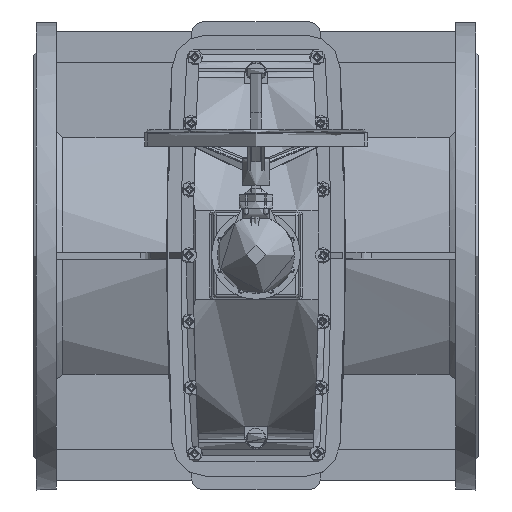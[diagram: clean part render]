
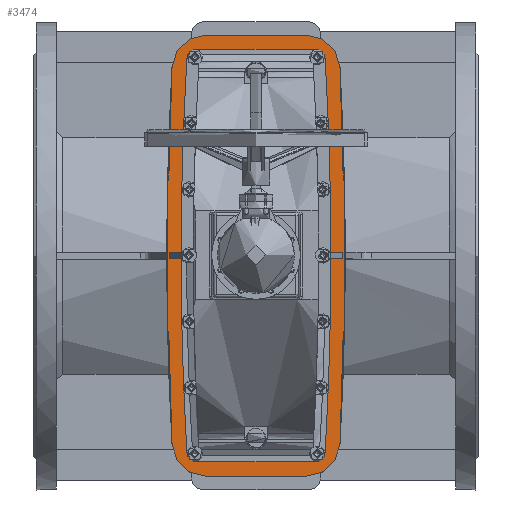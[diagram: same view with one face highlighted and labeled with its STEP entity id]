
A CAD part, top view. The second image highlights one B-rep face of the part: STEP entity #3474.
In plain terms, the highlighted planar face has unit normal (0, 0, 1).
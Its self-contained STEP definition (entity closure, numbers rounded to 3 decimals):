
#3474=ADVANCED_FACE('',(#9828,#9830),#9832,.T.);
#9828=FACE_BOUND('',#9829,.T.);
#9829=EDGE_LOOP('',(#30755,#30756,#30757,#30758,#30759,#30760,#30761,#30762));
#9830=FACE_BOUND('',#9831,.T.);
#9831=EDGE_LOOP('',(#30763,#30764,#30765,#30766,#30767,#30768,#30769,#30770,#30771,
#30772,#30773,#30774,#30775,#30776,#30777,#30778));
#9832=PLANE('',#9833);
#9833=AXIS2_PLACEMENT_3D('',#9834,#9835,#9836);
#9834=CARTESIAN_POINT('',(0.,0.,512.785));
#9835=DIRECTION('',(0.,0.,1.));
#9836=DIRECTION('',(-1.,0.,0.));
#30755=ORIENTED_EDGE('',*,*,#35868,.T.);
#30756=ORIENTED_EDGE('',*,*,#35866,.T.);
#30757=ORIENTED_EDGE('',*,*,#35864,.T.);
#30758=ORIENTED_EDGE('',*,*,#35862,.T.);
#30759=ORIENTED_EDGE('',*,*,#35878,.T.);
#30760=ORIENTED_EDGE('',*,*,#35876,.T.);
#30761=ORIENTED_EDGE('',*,*,#35874,.T.);
#30762=ORIENTED_EDGE('',*,*,#35870,.T.);
#30763=ORIENTED_EDGE('',*,*,#36004,.F.);
#30764=ORIENTED_EDGE('',*,*,#36005,.F.);
#30765=ORIENTED_EDGE('',*,*,#36006,.F.);
#30766=ORIENTED_EDGE('',*,*,#36007,.T.);
#30767=ORIENTED_EDGE('',*,*,#36008,.T.);
#30768=ORIENTED_EDGE('',*,*,#36009,.T.);
#30769=ORIENTED_EDGE('',*,*,#36010,.T.);
#30770=ORIENTED_EDGE('',*,*,#36011,.T.);
#30771=ORIENTED_EDGE('',*,*,#36012,.F.);
#30772=ORIENTED_EDGE('',*,*,#36013,.F.);
#30773=ORIENTED_EDGE('',*,*,#36014,.F.);
#30774=ORIENTED_EDGE('',*,*,#36015,.T.);
#30775=ORIENTED_EDGE('',*,*,#36016,.T.);
#30776=ORIENTED_EDGE('',*,*,#36017,.T.);
#30777=ORIENTED_EDGE('',*,*,#36018,.T.);
#30778=ORIENTED_EDGE('',*,*,#36019,.T.);
#35862=EDGE_CURVE('',#39529,#39527,#39530,.T.);
#35864=EDGE_CURVE('',#39532,#39529,#39533,.T.);
#35866=EDGE_CURVE('',#39535,#39532,#39536,.T.);
#35868=EDGE_CURVE('',#39538,#39535,#39539,.T.);
#35870=EDGE_CURVE('',#39541,#39538,#39542,.T.);
#35874=EDGE_CURVE('',#39546,#39541,#39547,.T.);
#35876=EDGE_CURVE('',#39549,#39546,#39550,.T.);
#35878=EDGE_CURVE('',#39527,#39549,#39552,.T.);
#36004=EDGE_CURVE('',#39776,#39777,#39778,.F.);
#36005=EDGE_CURVE('',#39779,#39776,#39780,.T.);
#36006=EDGE_CURVE('',#39781,#39779,#39782,.T.);
#36007=EDGE_CURVE('',#39781,#39783,#39784,.F.);
#36008=EDGE_CURVE('',#39783,#39785,#39786,.T.);
#36009=EDGE_CURVE('',#39785,#39787,#39788,.T.);
#36010=EDGE_CURVE('',#39787,#39789,#39790,.T.);
#36011=EDGE_CURVE('',#39789,#39791,#39792,.F.);
#36012=EDGE_CURVE('',#39793,#39791,#39794,.T.);
#36013=EDGE_CURVE('',#39795,#39793,#39796,.T.);
#36014=EDGE_CURVE('',#39797,#39795,#39798,.F.);
#36015=EDGE_CURVE('',#39797,#39799,#39800,.F.);
#36016=EDGE_CURVE('',#39799,#39801,#39802,.T.);
#36017=EDGE_CURVE('',#39801,#39803,#39804,.T.);
#36018=EDGE_CURVE('',#39803,#39805,#39806,.T.);
#36019=EDGE_CURVE('',#39805,#39777,#39807,.F.);
#39527=VERTEX_POINT('',#49996);
#39529=VERTEX_POINT('',#50000);
#39530=CIRCLE('',#50001,5978.392);
#39532=VERTEX_POINT('',#50008);
#39533=CIRCLE('',#50009,60.);
#39535=VERTEX_POINT('',#50016);
#39536=LINE('',#50017,#50018);
#39538=VERTEX_POINT('',#50023);
#39539=CIRCLE('',#50024,60.);
#39541=VERTEX_POINT('',#50031);
#39542=CIRCLE('',#50032,5978.392);
#39546=VERTEX_POINT('',#50045);
#39547=CIRCLE('',#50046,60.);
#39549=VERTEX_POINT('',#50053);
#39550=LINE('',#50054,#50055);
#39552=CIRCLE('',#50060,60.);
#39776=VERTEX_POINT('',#50552);
#39777=VERTEX_POINT('',#50553);
#39778=LINE('',#50554,#50555);
#39779=VERTEX_POINT('',#50557);
#39780=LINE('',#50558,#50559);
#39781=VERTEX_POINT('',#50561);
#39782=LINE('',#50562,#50563);
#39783=VERTEX_POINT('',#50565);
#39784=CIRCLE('',#50566,5930.392);
#39785=VERTEX_POINT('',#50570);
#39786=CIRCLE('',#50571,12.);
#39787=VERTEX_POINT('',#50575);
#39788=LINE('',#50576,#50577);
#39789=VERTEX_POINT('',#50579);
#39790=CIRCLE('',#50580,12.);
#39791=VERTEX_POINT('',#50584);
#39792=CIRCLE('',#50585,5930.392);
#39793=VERTEX_POINT('',#50589);
#39794=LINE('',#50590,#50591);
#39795=VERTEX_POINT('',#50593);
#39796=LINE('',#50594,#50595);
#39797=VERTEX_POINT('',#50597);
#39798=LINE('',#50598,#50599);
#39799=VERTEX_POINT('',#50601);
#39800=CIRCLE('',#50602,5930.392);
#39801=VERTEX_POINT('',#50606);
#39802=CIRCLE('',#50607,12.);
#39803=VERTEX_POINT('',#50611);
#39804=LINE('',#50612,#50613);
#39805=VERTEX_POINT('',#50615);
#39806=CIRCLE('',#50616,12.);
#39807=CIRCLE('',#50620,5930.392);
#49996=CARTESIAN_POINT('',(-150.77,-339.406,512.785));
#50000=CARTESIAN_POINT('',(-150.77,339.406,512.785));
#50001=AXIS2_PLACEMENT_3D('',#50002,#50003,#50004);
#50002=CARTESIAN_POINT('',(5817.981,0.,512.785));
#50003=DIRECTION('',(0.,0.,1.));
#50004=DIRECTION('',(-0.998,0.057,0.));
#50008=CARTESIAN_POINT('',(-90.866,396.,512.785));
#50009=AXIS2_PLACEMENT_3D('',#50010,#50011,#50012);
#50010=CARTESIAN_POINT('',(-90.866,336.,512.785));
#50011=DIRECTION('',(0.,0.,1.));
#50012=DIRECTION('',(0.,1.,0.));
#50016=CARTESIAN_POINT('',(90.866,396.,512.785));
#50017=CARTESIAN_POINT('',(90.866,396.,512.785));
#50018=VECTOR('',#50019,1.);
#50019=DIRECTION('',(-1.,0.,0.));
#50023=CARTESIAN_POINT('',(150.77,339.406,512.785));
#50024=AXIS2_PLACEMENT_3D('',#50025,#50026,#50027);
#50025=CARTESIAN_POINT('',(90.866,336.,512.785));
#50026=DIRECTION('',(0.,0.,1.));
#50027=DIRECTION('',(0.998,0.057,0.));
#50031=CARTESIAN_POINT('',(150.77,-339.406,512.785));
#50032=AXIS2_PLACEMENT_3D('',#50033,#50034,#50035);
#50033=CARTESIAN_POINT('',(-5817.981,0.,512.785));
#50034=DIRECTION('',(0.,0.,1.));
#50035=DIRECTION('',(0.998,-0.057,0.));
#50045=CARTESIAN_POINT('',(90.866,-396.,512.785));
#50046=AXIS2_PLACEMENT_3D('',#50047,#50048,#50049);
#50047=CARTESIAN_POINT('',(90.866,-336.,512.785));
#50048=DIRECTION('',(0.,0.,1.));
#50049=DIRECTION('',(0.,-1.,0.));
#50053=CARTESIAN_POINT('',(-90.866,-396.,512.785));
#50054=CARTESIAN_POINT('',(-90.866,-396.,512.785));
#50055=VECTOR('',#50056,1.);
#50056=DIRECTION('',(1.,0.,0.));
#50060=AXIS2_PLACEMENT_3D('',#50061,#50062,#50063);
#50061=CARTESIAN_POINT('',(-90.866,-336.,512.785));
#50062=DIRECTION('',(0.,0.,1.));
#50063=DIRECTION('',(-0.998,-0.057,0.));
#50552=CARTESIAN_POINT('',(-155.517,-6.,512.785));
#50553=CARTESIAN_POINT('',(-112.409,-6.,512.785));
#50554=CARTESIAN_POINT('',(-112.409,-6.,512.785));
#50555=VECTOR('',#50556,1.);
#50556=DIRECTION('',(-1.,0.,0.));
#50557=CARTESIAN_POINT('',(-155.517,6.,512.785));
#50558=CARTESIAN_POINT('',(-155.517,6.,512.785));
#50559=VECTOR('',#50560,1.);
#50560=DIRECTION('',(0.,-1.,0.));
#50561=CARTESIAN_POINT('',(-112.409,6.,512.785));
#50562=CARTESIAN_POINT('',(-112.409,6.,512.785));
#50563=VECTOR('',#50564,1.);
#50564=DIRECTION('',(-1.,0.,0.));
#50565=CARTESIAN_POINT('',(-102.847,336.681,512.785));
#50566=AXIS2_PLACEMENT_3D('',#50567,#50568,#50569);
#50567=CARTESIAN_POINT('',(5817.981,0.,512.785));
#50568=DIRECTION('',(0.,0.,1.));
#50569=DIRECTION('',(-0.998,0.057,0.));
#50570=CARTESIAN_POINT('',(-90.866,348.,512.785));
#50571=AXIS2_PLACEMENT_3D('',#50572,#50573,#50574);
#50572=CARTESIAN_POINT('',(-90.866,336.,512.785));
#50573=DIRECTION('',(0.,0.,-1.));
#50574=DIRECTION('',(-0.998,0.057,0.));
#50575=CARTESIAN_POINT('',(90.866,348.,512.785));
#50576=CARTESIAN_POINT('',(-90.866,348.,512.785));
#50577=VECTOR('',#50578,1.);
#50578=DIRECTION('',(1.,0.,0.));
#50579=CARTESIAN_POINT('',(102.847,336.681,512.785));
#50580=AXIS2_PLACEMENT_3D('',#50581,#50582,#50583);
#50581=CARTESIAN_POINT('',(90.866,336.,512.785));
#50582=DIRECTION('',(0.,0.,-1.));
#50583=DIRECTION('',(0.,1.,0.));
#50584=CARTESIAN_POINT('',(112.409,6.,512.785));
#50585=AXIS2_PLACEMENT_3D('',#50586,#50587,#50588);
#50586=CARTESIAN_POINT('',(-5817.981,0.,512.785));
#50587=DIRECTION('',(0.,0.,1.));
#50588=DIRECTION('',(1.,0.001,0.));
#50589=CARTESIAN_POINT('',(155.517,6.,512.785));
#50590=CARTESIAN_POINT('',(155.517,6.,512.785));
#50591=VECTOR('',#50592,1.);
#50592=DIRECTION('',(-1.,0.,0.));
#50593=CARTESIAN_POINT('',(155.517,-6.,512.785));
#50594=CARTESIAN_POINT('',(155.517,-6.,512.785));
#50595=VECTOR('',#50596,1.);
#50596=DIRECTION('',(0.,1.,0.));
#50597=CARTESIAN_POINT('',(112.409,-6.,512.785));
#50598=CARTESIAN_POINT('',(155.517,-6.,512.785));
#50599=VECTOR('',#50600,1.);
#50600=DIRECTION('',(-1.,0.,0.));
#50601=CARTESIAN_POINT('',(102.847,-336.681,512.785));
#50602=AXIS2_PLACEMENT_3D('',#50603,#50604,#50605);
#50603=CARTESIAN_POINT('',(-5817.981,0.,512.785));
#50604=DIRECTION('',(0.,0.,1.));
#50605=DIRECTION('',(0.998,-0.057,0.));
#50606=CARTESIAN_POINT('',(90.866,-348.,512.785));
#50607=AXIS2_PLACEMENT_3D('',#50608,#50609,#50610);
#50608=CARTESIAN_POINT('',(90.866,-336.,512.785));
#50609=DIRECTION('',(0.,0.,-1.));
#50610=DIRECTION('',(0.998,-0.057,0.));
#50611=CARTESIAN_POINT('',(-90.866,-348.,512.785));
#50612=CARTESIAN_POINT('',(90.866,-348.,512.785));
#50613=VECTOR('',#50614,1.);
#50614=DIRECTION('',(-1.,0.,0.));
#50615=CARTESIAN_POINT('',(-102.847,-336.681,512.785));
#50616=AXIS2_PLACEMENT_3D('',#50617,#50618,#50619);
#50617=CARTESIAN_POINT('',(-90.866,-336.,512.785));
#50618=DIRECTION('',(0.,0.,-1.));
#50619=DIRECTION('',(0.,-1.,0.));
#50620=AXIS2_PLACEMENT_3D('',#50621,#50622,#50623);
#50621=CARTESIAN_POINT('',(5817.981,0.,512.785));
#50622=DIRECTION('',(0.,0.,1.));
#50623=DIRECTION('',(-1.,-0.001,0.));
